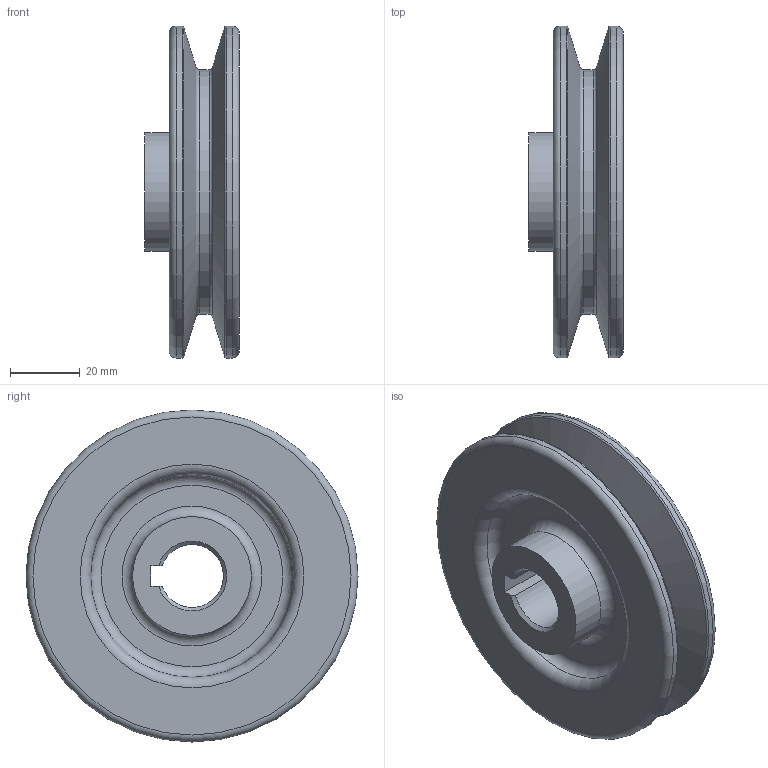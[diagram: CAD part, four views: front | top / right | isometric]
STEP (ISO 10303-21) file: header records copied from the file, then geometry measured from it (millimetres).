
FILE_DESCRIPTION(/* description */ (''),/* implementation_level */ '2;1');
FILE_NAME(/* name */ '',/* time_stamp */ '2025-07-11T16:51:38+09:00',/* author */ ('jhkim'),/* organization */ (''),/* preprocessor_version */ 'ST-DEVELOPER v20.1',/* originating_system */ 'Autodesk Inventor 2026',/* authorisation */ '');
FILE_SCHEMA (('AUTOMOTIVE_DESIGN { 1 0 10303 214 3 1 1 }'));
Length unit declared in the file: millimetre
Products named in the file (1): V 벨트 풀리
Bounding box: 27 x 95 x 95 mm (x, y, z)
Volume: 92886.4 mm3; surface area: 27773.4 mm2
Topology: 1 solids, 1 shells, 30 faces, 70 edges, 46 vertices
Faces by surface type: torus 12, plane 9, cylinder 6, cone 3
Full cylindrical faces by diameter (mm): 34 x2, 70 x1, 95 x2
Entity records: 934 total; most frequent: DIRECTION 181, CARTESIAN_POINT 151, ORIENTED_EDGE 140, AXIS2_PLACEMENT_3D 82, EDGE_CURVE 70, CIRCLE 51, VERTEX_POINT 46, EDGE_LOOP 36
